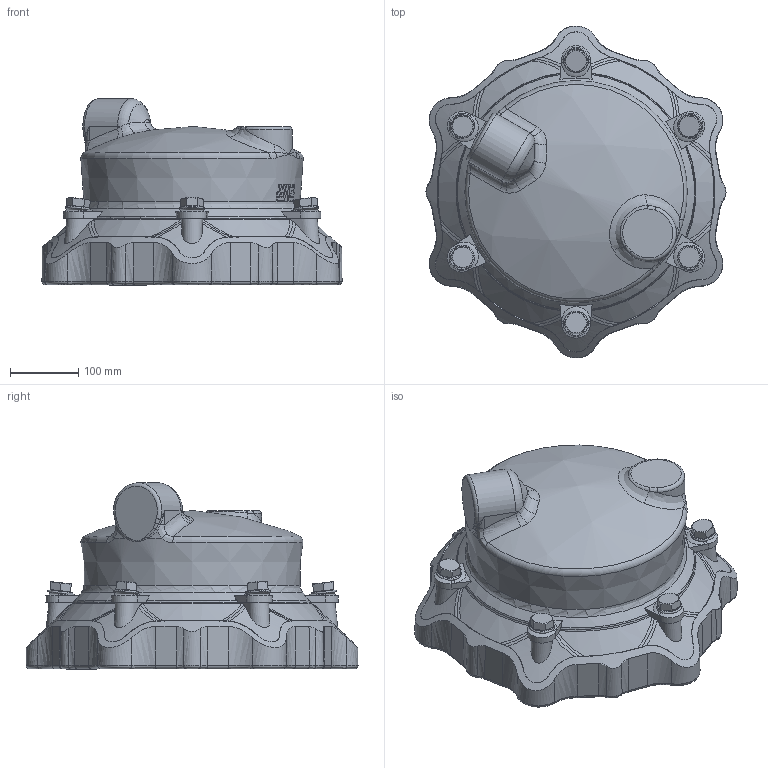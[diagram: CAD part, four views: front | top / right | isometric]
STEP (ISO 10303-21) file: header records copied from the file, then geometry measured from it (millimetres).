
FILE_DESCRIPTION (( 'STEP AP203' ), '1' );
FILE_NAME ('O_634_00_DN250_266-301mm_AA0_step.step', '2016-05-10T10:45:09', ( 'Windows User' ), ( 'AVK' ), 'SwSTEP 2.0', 'SolidWorks 2012', '' );
FILE_SCHEMA (( 'CONFIG_CONTROL_DESIGN' ));
Length unit declared in the file: millimetre
Products named in the file (1): O_634_00_DN250_266-301mm_AA0_step
Bounding box: 438.73 x 485.42 x 272.51 mm (x, y, z)
Volume: 9694730.8 mm3; surface area: 726223.4 mm2
Topology: 1 solids, 1 shells, 612 faces, 1603 edges, 1007 vertices
Faces by surface type: bspline 246, plane 189, cylinder 74, cone 56, torus 39, sphere 8
Full cylindrical faces by diameter (mm): 30 x6, 301 x3
Entity records: 31910 total; most frequent: CARTESIAN_POINT 19766, ORIENTED_EDGE 3138, DIRECTION 1698, EDGE_CURVE 1569, VERTEX_POINT 997, EDGE_LOOP 648, AXIS2_PLACEMENT_3D 641, FACE_OUTER_BOUND 630
